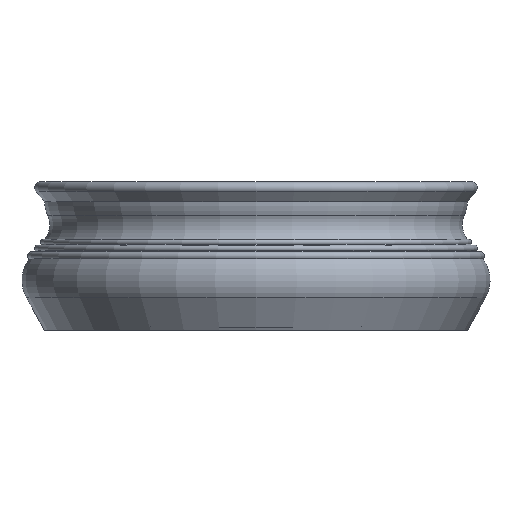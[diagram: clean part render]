
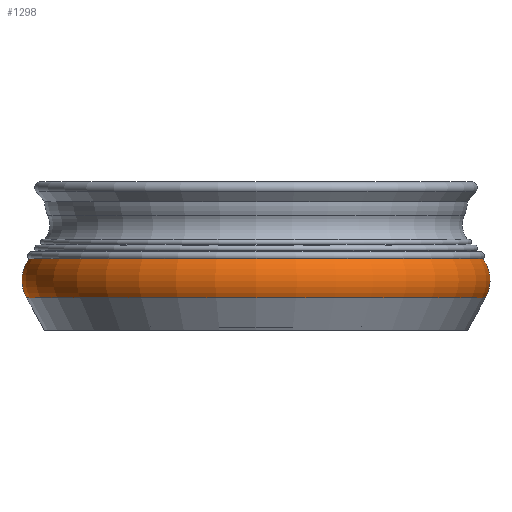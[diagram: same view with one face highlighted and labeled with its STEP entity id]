
A CAD part, front view. The second image highlights one B-rep face of the part: STEP entity #1298.
In plain terms, the highlighted toroidal (fillet/blend) face has major radius 166.81 mm and minor radius 30.55 mm.
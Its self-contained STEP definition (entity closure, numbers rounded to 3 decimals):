
#22=TOROIDAL_SURFACE('',#1475,166.81,30.55);
#164=FACE_OUTER_BOUND('',#280,.T.);
#280=EDGE_LOOP('',(#1187,#1188,#1189,#1190));
#517=CIRCLE('',#1439,193.488);
#539=CIRCLE('',#1476,191.512);
#540=CIRCLE('',#1477,30.55);
#642=VERTEX_POINT('',#2198);
#657=VERTEX_POINT('',#2257);
#805=EDGE_CURVE('',#642,#642,#517,.T.);
#834=EDGE_CURVE('',#657,#657,#539,.T.);
#835=EDGE_CURVE('',#657,#642,#540,.T.);
#1187=ORIENTED_EDGE('',*,*,#834,.F.);
#1188=ORIENTED_EDGE('',*,*,#835,.T.);
#1189=ORIENTED_EDGE('',*,*,#805,.T.);
#1190=ORIENTED_EDGE('',*,*,#835,.F.);
#1298=ADVANCED_FACE('',(#164),#22,.T.);
#1439=AXIS2_PLACEMENT_3D('',#2199,#1805,#1806);
#1475=AXIS2_PLACEMENT_3D('',#2256,#1884,#1885);
#1476=AXIS2_PLACEMENT_3D('',#2258,#1886,#1887);
#1477=AXIS2_PLACEMENT_3D('',#2259,#1888,#1889);
#1805=DIRECTION('center_axis',(0.,0.,1.));
#1806=DIRECTION('ref_axis',(1.,0.,0.));
#1884=DIRECTION('center_axis',(0.,0.,1.));
#1885=DIRECTION('ref_axis',(1.,0.,0.));
#1886=DIRECTION('center_axis',(0.,0.,1.));
#1887=DIRECTION('ref_axis',(1.,0.,0.));
#1888=DIRECTION('center_axis',(0.,-1.,0.));
#1889=DIRECTION('ref_axis',(-1.,0.,0.));
#2198=CARTESIAN_POINT('',(-193.488,0.,27.115));
#2199=CARTESIAN_POINT('Origin',(0.,0.,27.115));
#2256=CARTESIAN_POINT('Origin',(0.,0.,42.));
#2257=CARTESIAN_POINT('',(-191.512,0.,59.976));
#2258=CARTESIAN_POINT('Origin',(0.,0.,59.976));
#2259=CARTESIAN_POINT('Origin',(-166.81,0.,
42.));
